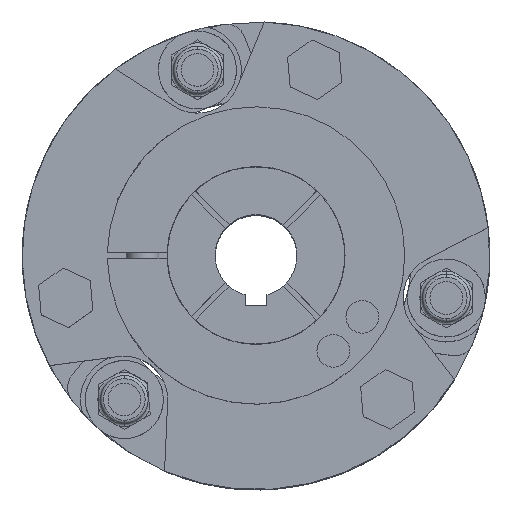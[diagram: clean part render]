
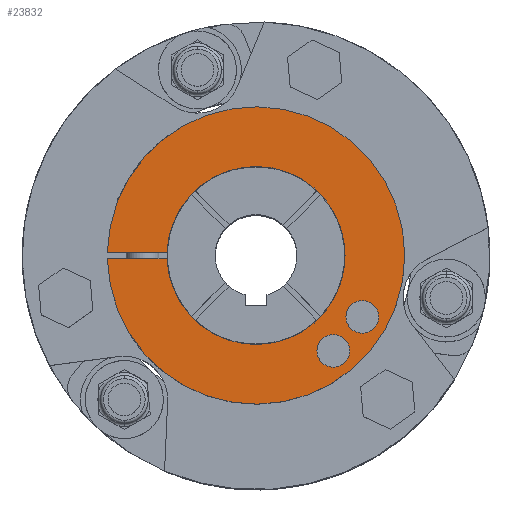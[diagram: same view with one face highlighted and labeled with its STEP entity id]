
A CAD part, top view. The second image highlights one B-rep face of the part: STEP entity #23832.
In plain terms, the highlighted planar face has unit normal (0, 0, 1).
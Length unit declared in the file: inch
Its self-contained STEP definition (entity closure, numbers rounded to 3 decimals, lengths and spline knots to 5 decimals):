
#10816=CARTESIAN_POINT('',(0.,0.,4.102));
#10817=DIRECTION('',(0.,0.,1.));
#10818=DIRECTION('',(-1.,-0.023,0.));
#10819=AXIS2_PLACEMENT_3D('',#10816,#10817,#10818);
#10961=DIRECTION('',(1.,0.,0.));
#10962=VECTOR('',#10961,0.86127);
#10963=CARTESIAN_POINT('',(-2.14492,-0.05,4.102));
#10964=LINE('',#10963,#10962);
#10968=CARTESIAN_POINT('',(0.,0.,4.102));
#10969=DIRECTION('',(0.,0.,1.));
#10970=DIRECTION('',(-0.999,-0.039,0.));
#10971=AXIS2_PLACEMENT_3D('',#10968,#10969,#10970);
#10976=CARTESIAN_POINT('',(0.,0.,4.102));
#10977=DIRECTION('',(0.,0.,1.));
#10978=DIRECTION('',(1.,0.,0.));
#10979=AXIS2_PLACEMENT_3D('',#10976,#10977,#10978);
#10984=DIRECTION('',(-1.,0.,0.));
#10985=VECTOR('',#10984,0.86127);
#10986=CARTESIAN_POINT('',(-1.28364,0.05,4.102));
#10987=LINE('',#10986,#10985);
#10991=CARTESIAN_POINT('',(1.11431,-1.37553,4.102));
#10992=DIRECTION('',(0.,0.,1.));
#10993=DIRECTION('',(1.,0.,0.));
#10994=AXIS2_PLACEMENT_3D('',#10991,#10992,#10993);
#10999=CARTESIAN_POINT('',(1.11431,-1.37553,4.102));
#11000=DIRECTION('',(0.,0.,1.));
#11001=DIRECTION('',(-1.,0.,0.));
#11002=AXIS2_PLACEMENT_3D('',#10999,#11000,#11001);
#11007=CARTESIAN_POINT('',(1.53317,-0.88496,4.102));
#11008=DIRECTION('',(0.,0.,1.));
#11009=DIRECTION('',(1.,0.,0.));
#11010=AXIS2_PLACEMENT_3D('',#11007,#11008,#11009);
#11015=CARTESIAN_POINT('',(1.53317,-0.88496,4.102));
#11016=DIRECTION('',(0.,0.,1.));
#11017=DIRECTION('',(-1.,0.,0.));
#11018=AXIS2_PLACEMENT_3D('',#11015,#11016,#11017);
#13093=CARTESIAN_POINT('',(1.28462,0.,4.102));
#13095=VERTEX_POINT('',#13093);
#13165=CARTESIAN_POINT('',(-2.14492,0.05,4.102));
#13166=VERTEX_POINT('',#13165);
#13167=CARTESIAN_POINT('',(-2.14492,-0.05,4.102));
#13168=VERTEX_POINT('',#13167);
#13173=CARTESIAN_POINT('',(-1.28364,-0.05,4.102));
#13174=VERTEX_POINT('',#13173);
#13175=CARTESIAN_POINT('',(-1.28364,0.05,4.102));
#13176=VERTEX_POINT('',#13175);
#13435=CARTESIAN_POINT('',(1.35031,-1.37553,4.102));
#13436=CARTESIAN_POINT('',(0.87831,-1.37553,4.102));
#13437=VERTEX_POINT('',#13435);
#13438=VERTEX_POINT('',#13436);
#13439=CARTESIAN_POINT('',(1.76917,-0.88496,4.102));
#13440=CARTESIAN_POINT('',(1.29717,-0.88496,4.102));
#13441=VERTEX_POINT('',#13439);
#13442=VERTEX_POINT('',#13440);
#23805=CARTESIAN_POINT('',(0.,0.,4.102));
#23806=DIRECTION('',(0.,0.,1.));
#23807=DIRECTION('',(1.,0.,0.));
#23808=AXIS2_PLACEMENT_3D('',#23805,#23806,#23807);
#23809=PLANE('',#23808);
#23810=ORIENTED_EDGE('',*,*,#23786,.F.);
#23811=ORIENTED_EDGE('',*,*,#23711,.T.);
#23813=ORIENTED_EDGE('',*,*,#23812,.T.);
#23815=ORIENTED_EDGE('',*,*,#23814,.T.);
#23817=ORIENTED_EDGE('',*,*,#23816,.T.);
#23818=EDGE_LOOP('',(#23810,#23811,#23813,#23815,#23817));
#23819=FACE_OUTER_BOUND('',#23818,.F.);
#23821=ORIENTED_EDGE('',*,*,#23820,.T.);
#23823=ORIENTED_EDGE('',*,*,#23822,.T.);
#23824=EDGE_LOOP('',(#23821,#23823));
#23825=FACE_BOUND('',#23824,.F.);
#23827=ORIENTED_EDGE('',*,*,#23826,.T.);
#23829=ORIENTED_EDGE('',*,*,#23828,.T.);
#23830=EDGE_LOOP('',(#23827,#23829));
#23831=FACE_BOUND('',#23830,.F.);
#10820=CIRCLE('',#10819,2.1455);
#10972=CIRCLE('',#10971,1.28462);
#10980=CIRCLE('',#10979,1.28462);
#10995=CIRCLE('',#10994,0.236);
#11003=CIRCLE('',#11002,0.236);
#11011=CIRCLE('',#11010,0.236);
#11019=CIRCLE('',#11018,0.236);
#23711=EDGE_CURVE('',#13168,#13174,#10964,.T.);
#23786=EDGE_CURVE('',#13168,#13166,#10820,.T.);
#23812=EDGE_CURVE('',#13174,#13095,#10972,.T.);
#23814=EDGE_CURVE('',#13095,#13176,#10980,.T.);
#23816=EDGE_CURVE('',#13176,#13166,#10987,.T.);
#23820=EDGE_CURVE('',#13437,#13438,#10995,.T.);
#23822=EDGE_CURVE('',#13438,#13437,#11003,.T.);
#23826=EDGE_CURVE('',#13441,#13442,#11011,.T.);
#23828=EDGE_CURVE('',#13442,#13441,#11019,.T.);
#23832=ADVANCED_FACE('',(#23819,#23825,#23831),#23809,.T.);
